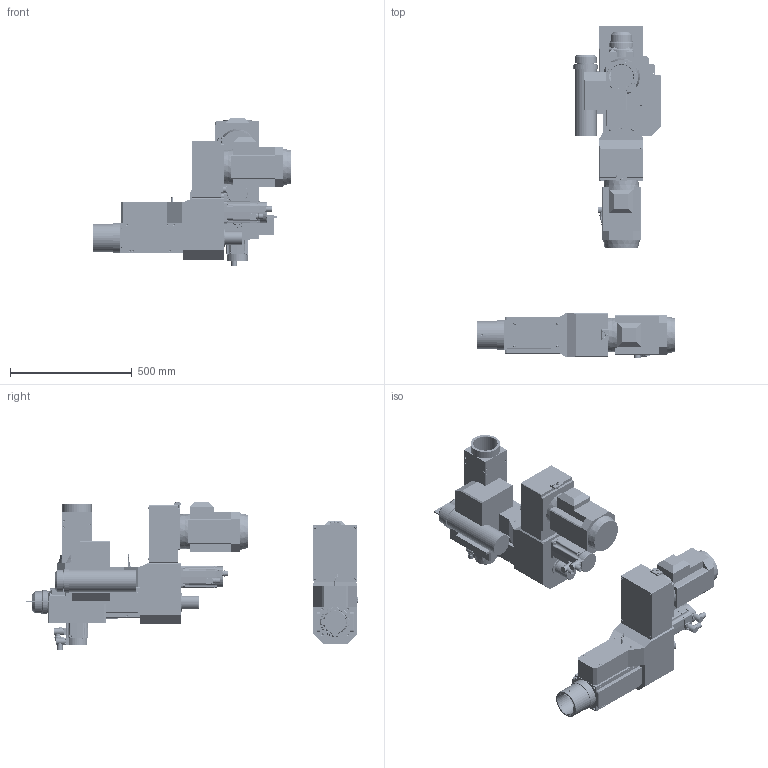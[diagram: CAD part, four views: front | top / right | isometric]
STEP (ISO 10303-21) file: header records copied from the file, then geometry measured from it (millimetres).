
FILE_DESCRIPTION( ( 'STEP AP203' ), '1' );
FILE_NAME( 'C:/Documents and Settings/Saverio/Desktop/disegni ironcad/unità serie 2/FMT 232 CN/FMT 232 CN_ABS32.stp', '2013-11-29T08:39:01', ( ' ' ), ( ' ' ), 'XStep 1.0', ' ', ' ' );
FILE_SCHEMA( ( 'CONFIG_CONTROL_DESIGN' ) );
Length unit declared in the file: metre
Products named in the file (40): Assem1; Assem2; Assem3; 1; 2; 3; 4; 5; 6; 7; 8; 9; 10; 11; 12; 13; 14; 15; 16; 17; 18; 19; 20; 21; 22; 23; 24; 25; 26; 27; 28; 29; 30; 31; 32; 33; 34; 35; 36; 37
Bounding box: 814.5 x 1362.82 x 609 mm (x, y, z)
Volume: 84416839.9 mm3; surface area: 5389948.4 mm2
Topology: 131 solids, 134 shells, 4647 faces, 11565 edges, 7535 vertices
Faces by surface type: plane 2267, cylinder 1615, cone 607, torus 86, bspline 72
Full cylindrical faces by diameter (mm): 1 x18, 2 x12, 3 x6, 4 x23, 4.2 x15, 4.5 x48, 4.918 x6, 5 x27, 5.5 x12, 6 x30, 6.5 x3, 7 x53, 7.4 x24, 8 x30, 8.5 x12, 9.87 x3, 10 x9, 13.5 x12, 16 x3, 18.3 x3, 19 x3, 19.2 x3, 20 x21, 21.7 x6, 22.7 x6, 25 x3, 26.7 x6, 35 x3, 42 x3, 42.5 x3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
Entity records: 45713 total; most frequent: CARTESIAN_POINT 10967, DIRECTION 6956, ORIENTED_EDGE 6266, EDGE_CURVE 3133, AXIS2_PLACEMENT_3D 2692, VERTEX_POINT 2250, EDGE_LOOP 1976, FACE_OUTER_BOUND 1636
